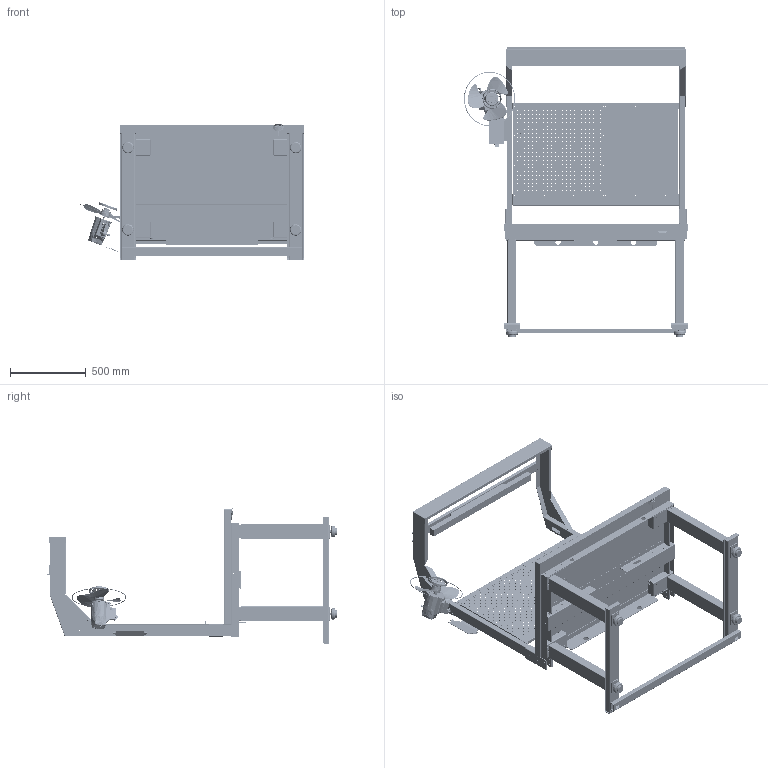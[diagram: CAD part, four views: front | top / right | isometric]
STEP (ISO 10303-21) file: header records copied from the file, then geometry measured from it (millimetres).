
FILE_DESCRIPTION (( 'STEP AP214' ), '1' );
FILE_NAME ('48INX30IN.STEP', '2018-10-08T14:07:54', ( '' ), ( '' ), 'SwSTEP 2.0', 'SolidWorks 2018', '' );
FILE_SCHEMA (( 'AUTOMOTIVE_DESIGN' ));
Length unit declared in the file: millimetre
Products named in the file (2): 48INX30IN
Bounding box: 1482.94 x 1924.07 x 901.72 mm (x, y, z)
Surface area: 13240307.8 mm2 (no closed solid volume)
Topology: 0 solids, 117 shells, 9207 faces, 26736 edges, 17583 vertices
Faces by surface type: plane 5565, cylinder 2979, bspline 581, cone 78, sphere 4
Full cylindrical faces by diameter (mm): 3.6 x8, 4 x3, 4.2 x8, 4.6 x1, 5 x108, 5.8 x4, 6 x6, 6.35 x22, 6.4 x8, 6.5 x548, 6.6 x6, 6.647 x4, 6.8 x45, 7 x37, 7.937 x2, 7.938 x2, 8 x9, 8.5 x8, 9.347 x16, 9.525 x8, 10 x22, 11.35 x8, 12 x4, 14 x1, 17 x2, 19.25 x8, 20 x4, 30 x2, 30.636 x1, 35 x3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
Entity records: 463167 total; most frequent: CARTESIAN_POINT 127243, ORIENTED_EDGE 48378, DIRECTION 45406, EDGE_CURVE 24891, LINE 17236, VECTOR 17236, VERTEX_POINT 16838, AXIS2_PLACEMENT_3D 14085
